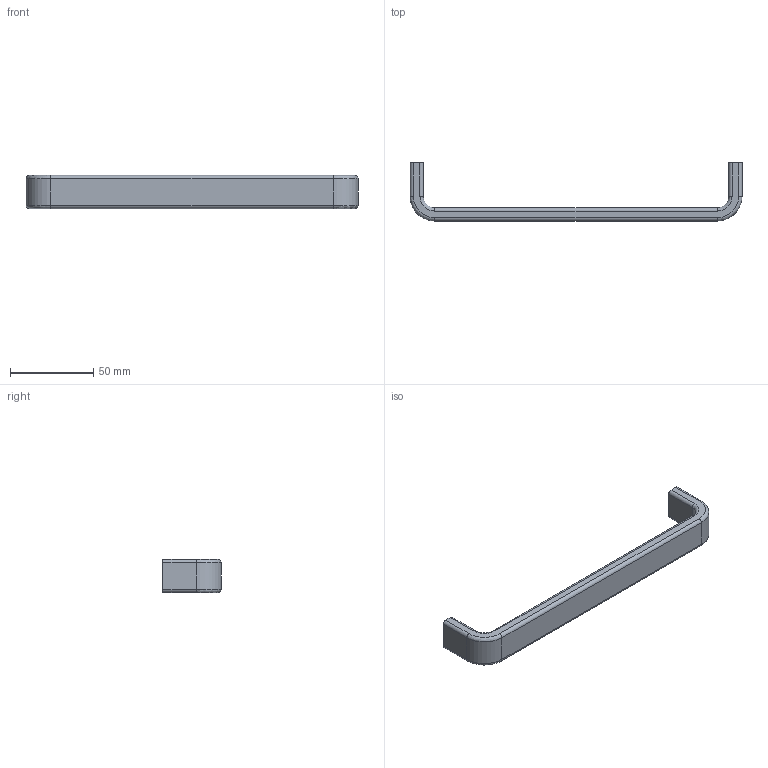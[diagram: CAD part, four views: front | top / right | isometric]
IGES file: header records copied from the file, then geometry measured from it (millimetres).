
Start section: Data from Parasolid IGES Translator 15.0.47, Copyright(c) 2006 Siemens P LM Software. All Rights Reserved.
Global section: file name:  115149.igs; native system:  By UGS Corp.; preprocessor: XPlus GENERIC/IGES 3.0; author: Noname; organization: Noname; date: 20140122.160105; units: millimetre
Bounding box: 200 x 35 x 20 mm (x, y, z)
Surface area: 13482.8 mm2 (no closed solid volume)
Topology: 0 solids, 0 shells, 38 faces, 172 edges, 170 vertices
Faces by surface type: revolution 26, extrusion 12
